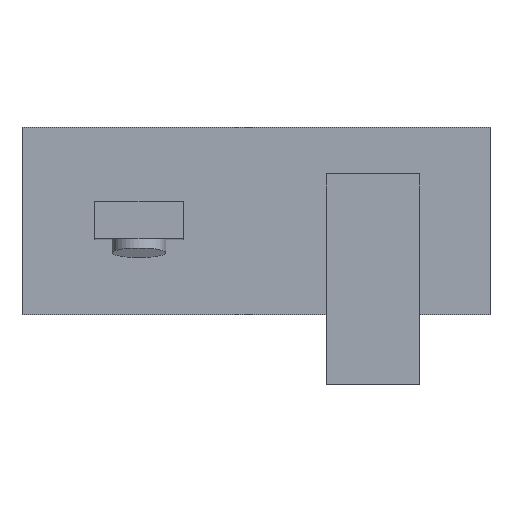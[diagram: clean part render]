
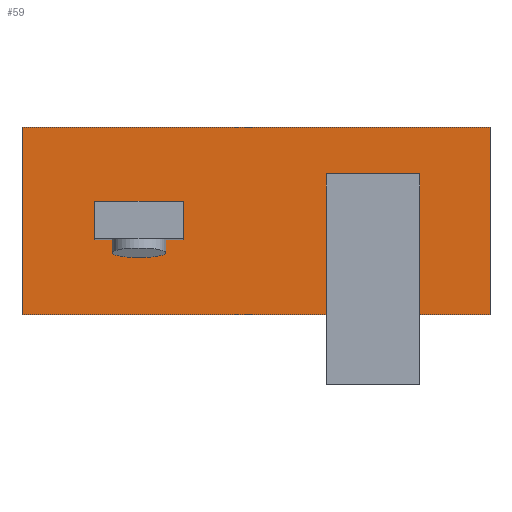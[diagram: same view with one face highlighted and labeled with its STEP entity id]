
A CAD part, top view. The second image highlights one B-rep face of the part: STEP entity #59.
In plain terms, the highlighted planar face has unit normal (0, 0, 1).
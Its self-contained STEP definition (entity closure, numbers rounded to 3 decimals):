
#59 = ADVANCED_FACE('',(#60),#94,.T.);
#60 = FACE_BOUND('',#61,.T.);
#61 = EDGE_LOOP('',(#62,#72,#80,#88));
#62 = ORIENTED_EDGE('',*,*,#63,.T.);
#63 = EDGE_CURVE('',#64,#66,#68,.T.);
#64 = VERTEX_POINT('',#65);
#65 = CARTESIAN_POINT('',(100.,40.,5.
    ));
#66 = VERTEX_POINT('',#67);
#67 = CARTESIAN_POINT('',(-100.,40.,5.
    ));
#68 = LINE('',#69,#70);
#69 = CARTESIAN_POINT('',(100.,40.,5.
    ));
#70 = VECTOR('',#71,1.);
#71 = DIRECTION('',(-1.,0.,0.));
#72 = ORIENTED_EDGE('',*,*,#73,.T.);
#73 = EDGE_CURVE('',#66,#74,#76,.T.);
#74 = VERTEX_POINT('',#75);
#75 = CARTESIAN_POINT('',(-100.,-40.,5.));
#76 = LINE('',#77,#78);
#77 = CARTESIAN_POINT('',(-100.,40.,5.
    ));
#78 = VECTOR('',#79,1.);
#79 = DIRECTION('',(0.,-1.,0.));
#80 = ORIENTED_EDGE('',*,*,#81,.T.);
#81 = EDGE_CURVE('',#74,#82,#84,.T.);
#82 = VERTEX_POINT('',#83);
#83 = CARTESIAN_POINT('',(100.,-40.,5.));
#84 = LINE('',#85,#86);
#85 = CARTESIAN_POINT('',(-100.,-40.,5.));
#86 = VECTOR('',#87,1.);
#87 = DIRECTION('',(1.,0.,0.));
#88 = ORIENTED_EDGE('',*,*,#89,.T.);
#89 = EDGE_CURVE('',#82,#64,#90,.T.);
#90 = LINE('',#91,#92);
#91 = CARTESIAN_POINT('',(100.,-40.,5.));
#92 = VECTOR('',#93,1.);
#93 = DIRECTION('',(0.,1.,0.));
#94 = PLANE('',#95);
#95 = AXIS2_PLACEMENT_3D('',#96,#97,#98);
#96 = CARTESIAN_POINT('',(-97.,40.,5.
    ));
#97 = DIRECTION('',(0.,0.,1.));
#98 = DIRECTION('',(-1.,0.,0.));
